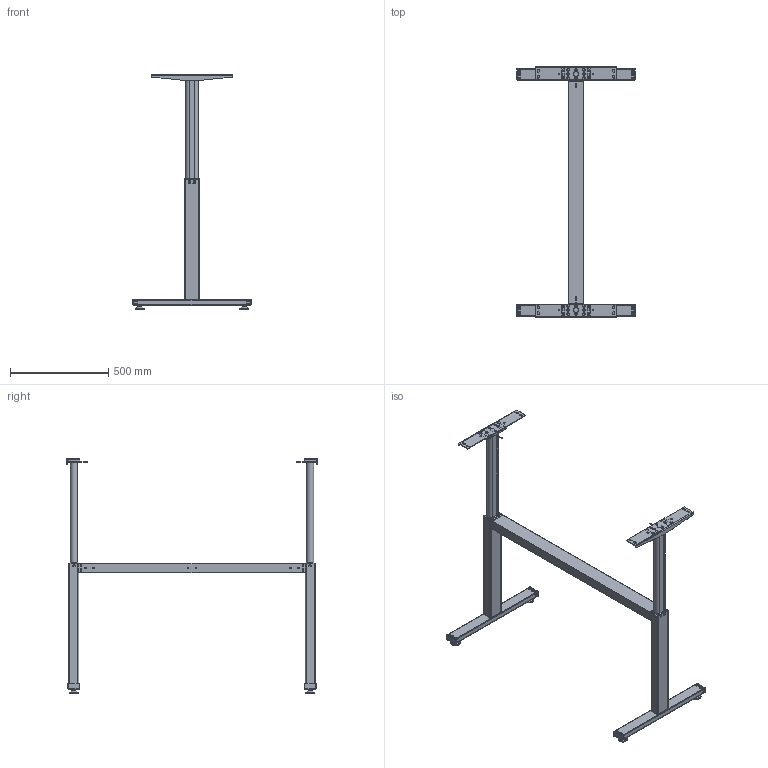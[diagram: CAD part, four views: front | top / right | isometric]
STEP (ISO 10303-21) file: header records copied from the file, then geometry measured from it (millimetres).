
FILE_DESCRIPTION(/* description */ ('Unknown'),/* implementation_level */ '2;1');
FILE_NAME(/* name */ '108.00032_02-Ausgefahren',/* time_stamp */ '2022-02-09T10:59:25+01:00',/* author */ ('Unknown'),/* organization */ ('Unknown'),/* preprocessor_version */ 'ST-DEVELOPER v18.1',/* originating_system */ 'Solid Edge',/* authorisation */ 'Unknown');
FILE_SCHEMA (('AUTOMOTIVE_DESIGN {1 0 10303 214 3 1 1}'));
Length unit declared in the file: millimetre
Products named in the file (34): 108.00032; 306.00090_oa_0; 124.00004; 107.00147_oa_1; 115.00007_oa_2; 127.00038; 127.00034_oa_3; Aussenprofil TA 1450; 127.00035; Innenprofil TA 1450; Abschlussplatte; 127.00048; Schraube 2,9x6,4; 127.00034_2’403_2’488_Kehlnaht 1_oa_4; 113.00002_70mm; 142.00077; 306.00090_oa_5; 107.00147_oa_6; 115.00007_oa_7; 127.00034_oa_8; 127.00034_2’403_2’488_Kehlnaht 1_oa_9; 115.00153; 127.00372; 127.00073; 115.00080; 127.00069; 142.00095; 113.00006; 113.00006-ohne Mutter; Mutter M10; 142.00194; 142.00179; 115.00160; 127.00401
Assembly tree (69 placements, depth 4):
  108.00032
    306.00090_oa_0
      124.00004
      107.00147_oa_1
        115.00007_oa_2
      127.00038
      127.00034_oa_3
        Aussenprofil TA 1450
        127.00035
        Innenprofil TA 1450
        Abschlussplatte
        127.00048
        Schraube 2,9x6,4  x6
        127.00034_2’403_2’488_Kehlnaht 1_oa_4
      113.00002_70mm
      142.00077  x4
    306.00090_oa_5
      124.00004
      107.00147_oa_6
        115.00007_oa_7
      127.00038
      127.00034_oa_8
        Aussenprofil TA 1450
        127.00035
        Innenprofil TA 1450
        Abschlussplatte
        127.00048
        Schraube 2,9x6,4  x6
        127.00034_2’403_2’488_Kehlnaht 1_oa_9
      113.00002_70mm
      142.00077  x4
    115.00153
      127.00372
    127.00073  x2
      115.00080
        127.00069
        142.00095  x2
      113.00006
        113.00006-ohne Mutter
        Mutter M10
      142.00194
      142.00179
    115.00160  x2
      127.00401
      142.00077
Bounding box: 600 x 1276 x 1195.5 mm (x, y, z)
Volume: 2580248.4 mm3; surface area: 2317654.5 mm2
Topology: 77 solids, 93 shells, 2888 faces, 6744 edges, 4046 vertices
Faces by surface type: plane 1120, cylinder 1046, bspline 258, cone 256, torus 168, sphere 40
Full cylindrical faces by diameter (mm): 2.2 x2, 2.5 x12, 2.9 x12, 4 x2, 4.917 x42, 5.8 x16, 6 x16, 6.5 x12, 6.647 x4, 6.8 x8, 7 x20, 8 x2, 8.376 x8, 9 x18, 9.5 x4, 10 x16, 10.5 x8, 12 x2, 13 x8, 13.5 x2, 15 x8, 16 x4, 19 x4, 20 x4, 25 x6, 28 x4, 29 x4, 35 x4, 39 x4, 47 x4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
Entity records: 33411 total; most frequent: CARTESIAN_POINT 7613, DIRECTION 4799, ORIENTED_EDGE 4382, EDGE_CURVE 2191, AXIS2_PLACEMENT_3D 1890, VERTEX_POINT 1439, EDGE_LOOP 1424, FACE_BOUND 1424
